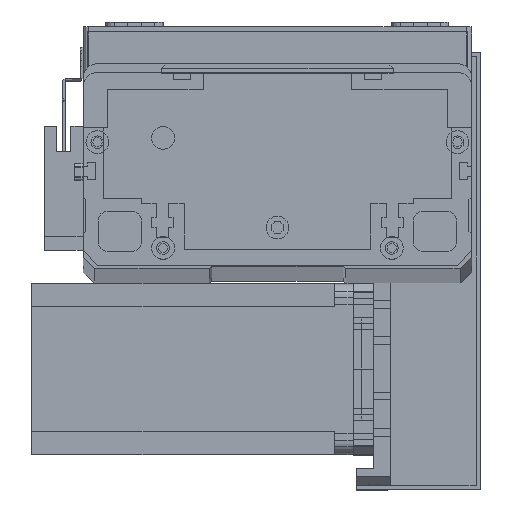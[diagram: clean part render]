
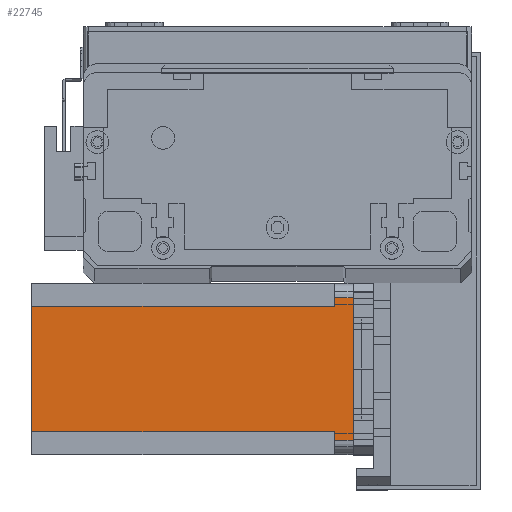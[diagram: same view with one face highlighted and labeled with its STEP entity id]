
A CAD part, top view. The second image highlights one B-rep face of the part: STEP entity #22745.
In plain terms, the highlighted planar face has unit normal (0, 0, 1) as drawn and (0, -1, 0) by its records, which use the part's own axes.
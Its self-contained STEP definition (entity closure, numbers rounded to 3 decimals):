
#419 = CARTESIAN_POINT ( 'NONE',  ( 5., 0., 0. ) ) ;
#839 = LINE ( 'NONE', #30647, #12882 ) ;
#2021 = CARTESIAN_POINT ( 'NONE',  ( 8., 0., -112.5 ) ) ;
#2738 = EDGE_CURVE ( 'NONE', #4421, #25206, #839, .T. ) ;
#3324 = ORIENTED_EDGE ( 'NONE', *, *, #21074, .F. ) ;
#3845 = VECTOR ( 'NONE', #30566, 1000. ) ;
#4421 = VERTEX_POINT ( 'NONE', #10373 ) ;
#5066 = EDGE_CURVE ( 'NONE', #6993, #29422, #16470, .T. ) ;
#5695 = CARTESIAN_POINT ( 'NONE',  ( 52., 0., -112.5 ) ) ;
#5719 = LINE ( 'NONE', #25915, #7196 ) ;
#6681 = ORIENTED_EDGE ( 'NONE', *, *, #25435, .F. ) ;
#6993 = VERTEX_POINT ( 'NONE', #2021 ) ;
#7196 = VECTOR ( 'NONE', #11458, 1000. ) ;
#7481 = FACE_OUTER_BOUND ( 'NONE', #11512, .T. ) ;
#8114 = CARTESIAN_POINT ( 'NONE',  ( 52., 0., -6.5 ) ) ;
#9446 = CARTESIAN_POINT ( 'NONE',  ( 0., 0., -112.5 ) ) ;
#9537 = PLANE ( 'NONE',  #17724 ) ;
#9591 = ORIENTED_EDGE ( 'NONE', *, *, #31198, .T. ) ;
#10373 = CARTESIAN_POINT ( 'NONE',  ( 8., 0., -6.5 ) ) ;
#11096 = ORIENTED_EDGE ( 'NONE', *, *, #2738, .F. ) ;
#11458 = DIRECTION ( 'NONE',  ( 0., 0., 1. ) ) ;
#11512 = EDGE_LOOP ( 'NONE', ( #30691, #28127, #3324, #9591, #11096, #13912, #30094, #6681 ) ) ;
#11997 = VECTOR ( 'NONE', #30027, 1000. ) ;
#12000 = DIRECTION ( 'NONE',  ( 0., -1., 0. ) ) ;
#12824 = CARTESIAN_POINT ( 'NONE',  ( 5., 0., -6.5 ) ) ;
#12882 = VECTOR ( 'NONE', #13779, 1000. ) ;
#13779 = DIRECTION ( 'NONE',  ( -1., 0., 0. ) ) ;
#13912 = ORIENTED_EDGE ( 'NONE', *, *, #21494, .F. ) ;
#13980 = LINE ( 'NONE', #26114, #26783 ) ;
#14634 = EDGE_CURVE ( 'NONE', #23402, #30857, #5719, .T. ) ;
#15262 = LINE ( 'NONE', #26998, #27305 ) ;
#15931 = DIRECTION ( 'NONE',  ( 1., 0., 0. ) ) ;
#16127 = CARTESIAN_POINT ( 'NONE',  ( 8., 0., -112.5 ) ) ;
#16470 = LINE ( 'NONE', #25499, #29308 ) ;
#16715 = VECTOR ( 'NONE', #20535, 1000. ) ;
#16802 = VERTEX_POINT ( 'NONE', #419 ) ;
#17724 = AXIS2_PLACEMENT_3D ( 'NONE', #9446, #12000, #28879 ) ;
#18038 = CARTESIAN_POINT ( 'NONE',  ( 52., 0., -6.5 ) ) ;
#20535 = DIRECTION ( 'NONE',  ( 0., 0., -1. ) ) ;
#20752 = VERTEX_POINT ( 'NONE', #8114 ) ;
#21074 = EDGE_CURVE ( 'NONE', #16802, #30857, #13980, .T. ) ;
#21494 = EDGE_CURVE ( 'NONE', #6993, #4421, #23081, .T. ) ;
#22215 = DIRECTION ( 'NONE',  ( 0., 0., -1. ) ) ;
#22745 = ADVANCED_FACE ( 'NONE', ( #7481 ), #9537, .T. ) ;
#23030 = EDGE_CURVE ( 'NONE', #20752, #23402, #24842, .T. ) ;
#23081 = LINE ( 'NONE', #16127, #3845 ) ;
#23138 = LINE ( 'NONE', #27657, #16715 ) ;
#23402 = VERTEX_POINT ( 'NONE', #24214 ) ;
#23851 = DIRECTION ( 'NONE',  ( 1., 0., 0. ) ) ;
#24214 = CARTESIAN_POINT ( 'NONE',  ( 55., 0., -6.5 ) ) ;
#24842 = LINE ( 'NONE', #18038, #11997 ) ;
#25206 = VERTEX_POINT ( 'NONE', #12824 ) ;
#25435 = EDGE_CURVE ( 'NONE', #20752, #29422, #15262, .T. ) ;
#25499 = CARTESIAN_POINT ( 'NONE',  ( 0., 0., -112.5 ) ) ;
#25915 = CARTESIAN_POINT ( 'NONE',  ( 55., 0., -112.5 ) ) ;
#26114 = CARTESIAN_POINT ( 'NONE',  ( 0., 0., 0. ) ) ;
#26783 = VECTOR ( 'NONE', #23851, 1000. ) ;
#26998 = CARTESIAN_POINT ( 'NONE',  ( 52., 0., -112.5 ) ) ;
#27305 = VECTOR ( 'NONE', #22215, 1000. ) ;
#27657 = CARTESIAN_POINT ( 'NONE',  ( 5., 0., -112.5 ) ) ;
#28127 = ORIENTED_EDGE ( 'NONE', *, *, #14634, .T. ) ;
#28879 = DIRECTION ( 'NONE',  ( 0., 0., -1. ) ) ;
#29308 = VECTOR ( 'NONE', #15931, 1000. ) ;
#29422 = VERTEX_POINT ( 'NONE', #5695 ) ;
#30027 = DIRECTION ( 'NONE',  ( 1., 0., 0. ) ) ;
#30094 = ORIENTED_EDGE ( 'NONE', *, *, #5066, .T. ) ;
#30566 = DIRECTION ( 'NONE',  ( 0., 0., 1. ) ) ;
#30647 = CARTESIAN_POINT ( 'NONE',  ( 8., 0., -6.5 ) ) ;
#30691 = ORIENTED_EDGE ( 'NONE', *, *, #23030, .T. ) ;
#30857 = VERTEX_POINT ( 'NONE', #31227 ) ;
#31198 = EDGE_CURVE ( 'NONE', #16802, #25206, #23138, .T. ) ;
#31227 = CARTESIAN_POINT ( 'NONE',  ( 55., 0., 0. ) ) ;
